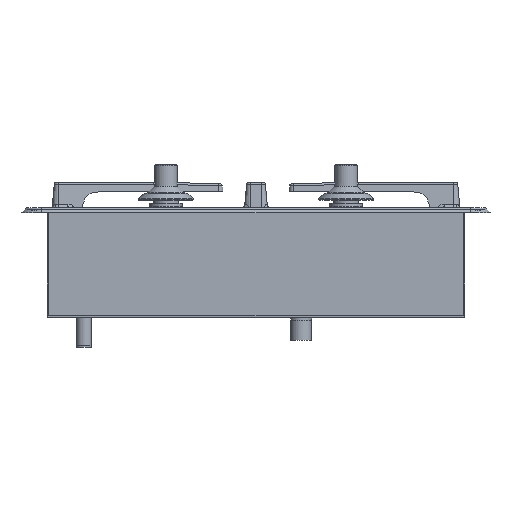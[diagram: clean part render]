
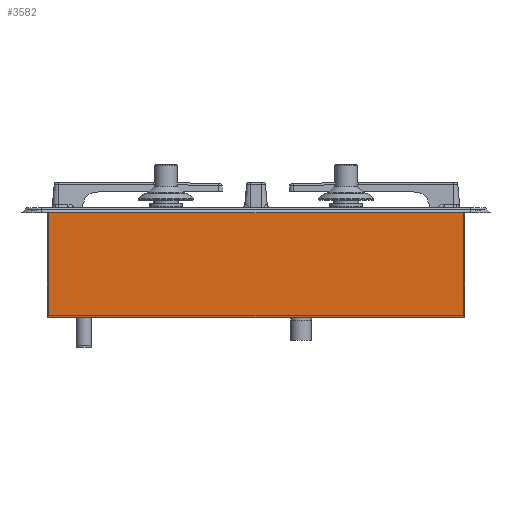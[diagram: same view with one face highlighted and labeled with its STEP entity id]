
A CAD part, front view. The second image highlights one B-rep face of the part: STEP entity #3582.
In plain terms, the highlighted planar face has unit normal (0, -1, 0).
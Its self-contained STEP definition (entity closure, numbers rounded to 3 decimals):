
#950=LINE('',#31186,#1640);
#963=LINE('',#31212,#1653);
#970=LINE('',#31226,#1660);
#972=LINE('',#31230,#1662);
#1640=VECTOR('',#16655,1.);
#1653=VECTOR('',#16686,1.);
#1660=VECTOR('',#16697,1.);
#1662=VECTOR('',#16701,1.);
#3582=ADVANCED_FACE('',(#4517),#3874,.F.);
#3874=PLANE('',#13458);
#4517=FACE_OUTER_BOUND('',#5383,.T.);
#5383=EDGE_LOOP('',(#8655,#8656,#8657,#8658));
#8655=ORIENTED_EDGE('',*,*,#11507,.T.);
#8656=ORIENTED_EDGE('',*,*,#11520,.F.);
#8657=ORIENTED_EDGE('',*,*,#11529,.F.);
#8658=ORIENTED_EDGE('',*,*,#11527,.T.);
#9851=VERTEX_POINT('',#31184);
#9853=VERTEX_POINT('',#31187);
#9856=VERTEX_POINT('',#31211);
#9862=VERTEX_POINT('',#31227);
#11507=EDGE_CURVE('',#9853,#9851,#950,.T.);
#11520=EDGE_CURVE('',#9856,#9851,#963,.T.);
#11527=EDGE_CURVE('',#9862,#9853,#970,.T.);
#11529=EDGE_CURVE('',#9862,#9856,#972,.T.);
#13458=AXIS2_PLACEMENT_3D('',#31231,#16702,#16703);
#16655=DIRECTION('',(-1.,0.,0.));
#16686=DIRECTION('',(0.,0.,1.));
#16697=DIRECTION('',(0.,0.,1.));
#16701=DIRECTION('',(-1.,0.,0.));
#16702=DIRECTION('',(0.,1.,0.));
#16703=DIRECTION('',(0.,0.,1.));
#31184=CARTESIAN_POINT('',(-353.978,494.744,0.));
#31186=CARTESIAN_POINT('',(-75.978,494.744,0.));
#31187=CARTESIAN_POINT('',(-75.978,494.744,0.));
#31211=CARTESIAN_POINT('',(-353.978,494.744,-71.));
#31212=CARTESIAN_POINT('',(-353.978,494.744,-71.));
#31226=CARTESIAN_POINT('',(-75.978,494.744,-71.));
#31227=CARTESIAN_POINT('',(-75.978,494.744,-71.));
#31230=CARTESIAN_POINT('',(-75.978,494.744,-71.));
#31231=CARTESIAN_POINT('',(-75.978,494.744,-71.));
